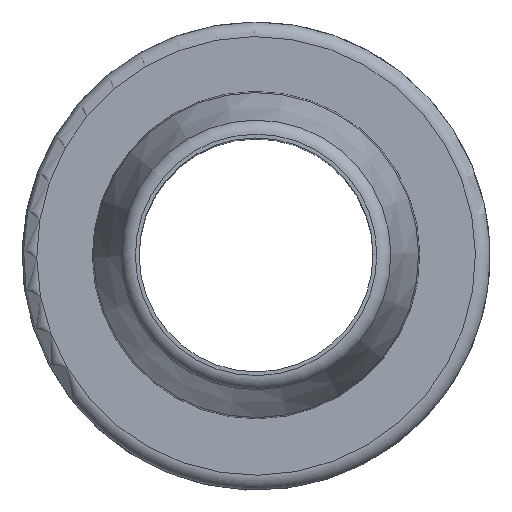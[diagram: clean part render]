
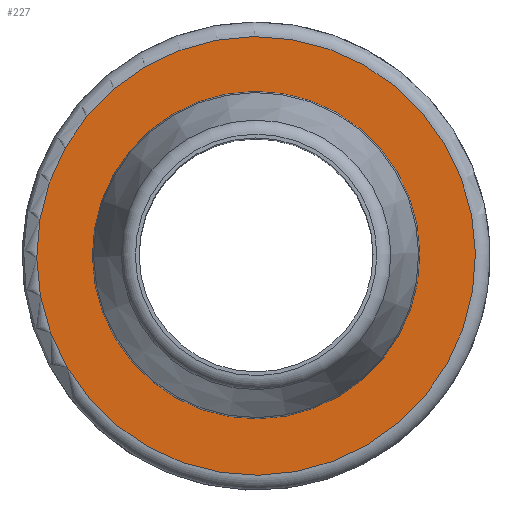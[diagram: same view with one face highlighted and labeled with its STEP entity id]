
A CAD part, top view. The second image highlights one B-rep face of the part: STEP entity #227.
In plain terms, the highlighted planar face has unit normal (0, 0, 1).
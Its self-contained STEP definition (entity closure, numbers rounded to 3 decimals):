
#214=PLANE('',#397);
#227=ADVANCED_FACE('BODY.9',(#258,#259),#214,.T.);
#258=FACE_BOUND('',#288,.T.);
#259=FACE_BOUND('',#289,.T.);
#288=EDGE_LOOP('',(#318));
#289=EDGE_LOOP('',(#319));
#318=ORIENTED_EDGE('',*,*,#353,.T.);
#319=ORIENTED_EDGE('',*,*,#352,.F.);
#337=VERTEX_POINT('',#501);
#338=VERTEX_POINT('',#504);
#352=EDGE_CURVE('',#337,#337,#367,.T.);
#353=EDGE_CURVE('',#338,#338,#368,.T.);
#367=CIRCLE('',#394,5.5);
#368=CIRCLE('',#396,7.5);
#394=AXIS2_PLACEMENT_3D('',#500,#450,#451);
#396=AXIS2_PLACEMENT_3D('',#503,#454,#455);
#397=AXIS2_PLACEMENT_3D('',#505,#456,#457);
#450=DIRECTION('',(0.,0.,1.));
#451=DIRECTION('',(0.163,0.987,0.));
#454=DIRECTION('',(0.,0.,1.));
#455=DIRECTION('',(0.163,0.987,0.));
#456=DIRECTION('',(0.,0.,1.));
#457=DIRECTION('',(0.869,-0.494,0.));
#500=CARTESIAN_POINT('',(0.,0.,
7.));
#501=CARTESIAN_POINT('',(0.899,5.426,7.));
#503=CARTESIAN_POINT('',(0.,0.,7.));
#504=CARTESIAN_POINT('',(1.226,7.399,7.));
#505=CARTESIAN_POINT('',(1.136,-6.907,7.));
